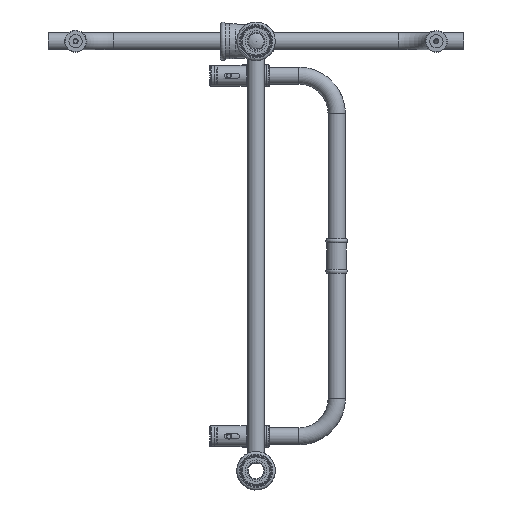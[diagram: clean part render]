
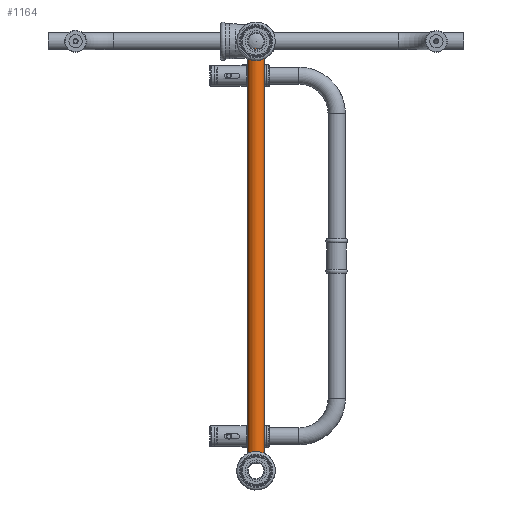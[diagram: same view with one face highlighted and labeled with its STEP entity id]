
A CAD part, front view. The second image highlights one B-rep face of the part: STEP entity #1164.
In plain terms, the highlighted cylindrical face has radius 10 mm (diameter 20 mm), a full revolution.
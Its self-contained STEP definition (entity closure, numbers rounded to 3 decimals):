
#1164 = ADVANCED_FACE( '', ( #2461, #2462 ), #2463, .T. );
#2461 = FACE_OUTER_BOUND( '', #4305, .T. );
#2462 = FACE_OUTER_BOUND( '', #4306, .T. );
#2463 = CYLINDRICAL_SURFACE( '', #4307, 10. );
#4305 = EDGE_LOOP( '', ( #6389 ) );
#4306 = EDGE_LOOP( '', ( #6390 ) );
#4307 = AXIS2_PLACEMENT_3D( '', #6391, #6392, #6393 );
#6389 = ORIENTED_EDGE( '', *, *, #8057, .T. );
#6390 = ORIENTED_EDGE( '', *, *, #7819, .F. );
#6391 = CARTESIAN_POINT( '', ( 242., 0., 0. ) );
#6392 = DIRECTION( '', ( 1., 0., 0. ) );
#6393 = DIRECTION( '', ( 0., 0., 1. ) );
#7819 = EDGE_CURVE( '', #8697, #8697, #8698, .T. );
#8057 = EDGE_CURVE( '', #9078, #9078, #9079, .T. );
#8697 = VERTEX_POINT( '', #11889 );
#8698 = CIRCLE( '', #11890, 10. );
#9078 = VERTEX_POINT( '', #14794 );
#9079 = CIRCLE( '', #14795, 10. );
#11889 = CARTESIAN_POINT( '', ( -242., 10., 0. ) );
#11890 = AXIS2_PLACEMENT_3D( '', #18501, #18502, #18503 );
#14794 = CARTESIAN_POINT( '', ( 242., 10., 0. ) );
#14795 = AXIS2_PLACEMENT_3D( '', #18838, #18839, #18840 );
#18501 = CARTESIAN_POINT( '', ( -242., 0., 0. ) );
#18502 = DIRECTION( '', ( -1., 0., 0. ) );
#18503 = DIRECTION( '', ( 0., 1., 0. ) );
#18838 = CARTESIAN_POINT( '', ( 242., 0., 0. ) );
#18839 = DIRECTION( '', ( -1., 0., 0. ) );
#18840 = DIRECTION( '', ( 0., 1., 0. ) );
